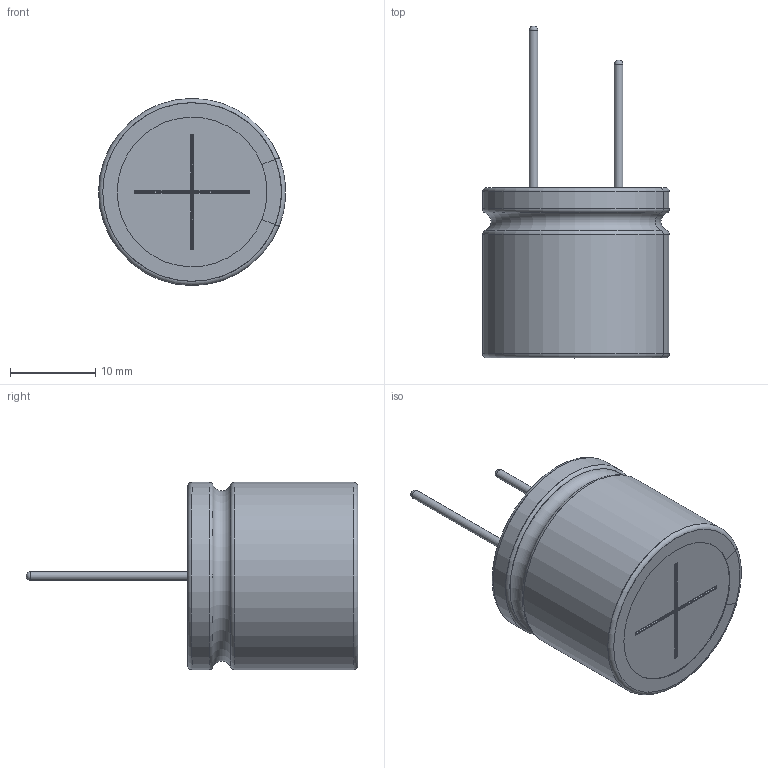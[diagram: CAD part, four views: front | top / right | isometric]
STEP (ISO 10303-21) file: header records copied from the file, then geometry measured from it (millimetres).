
FILE_DESCRIPTION(/* description */ (''),/* implementation_level */ '2;1');
FILE_NAME(/* name */ '22x20_Lead.stp',/* time_stamp */ '2017-09-06T16:06:55+09:00',/* author */ (''),/* organization */ (''),/* preprocessor_version */ 'ST-DEVELOPER v16',/* originating_system */ 'SIEMENS PLM Software NX 11.0',/* authorisation */ '');
FILE_SCHEMA (('AUTOMOTIVE_DESIGN { 1 0 10303 214 3 1 1 1 }'));
Length unit declared in the file: millimetre
Products named in the file (1): 22x20_Lead_0
Bounding box: 21.97 x 39 x 22 mm (x, y, z)
Volume: 7479.5 mm3; surface area: 5558.6 mm2
Topology: 3 solids, 3 shells, 100 faces, 252 edges, 160 vertices
Faces by surface type: cylinder 36, plane 28, torus 26, sphere 6, bspline 4
Full cylindrical faces by diameter (mm): 1 x2, 21.8 x2
Entity records: 3386 total; most frequent: CARTESIAN_POINT 605, DIRECTION 566, ORIENTED_EDGE 468, AXIS2_PLACEMENT_3D 235, EDGE_CURVE 234, VERTEX_POINT 154, CIRCLE 130, EDGE_LOOP 114
